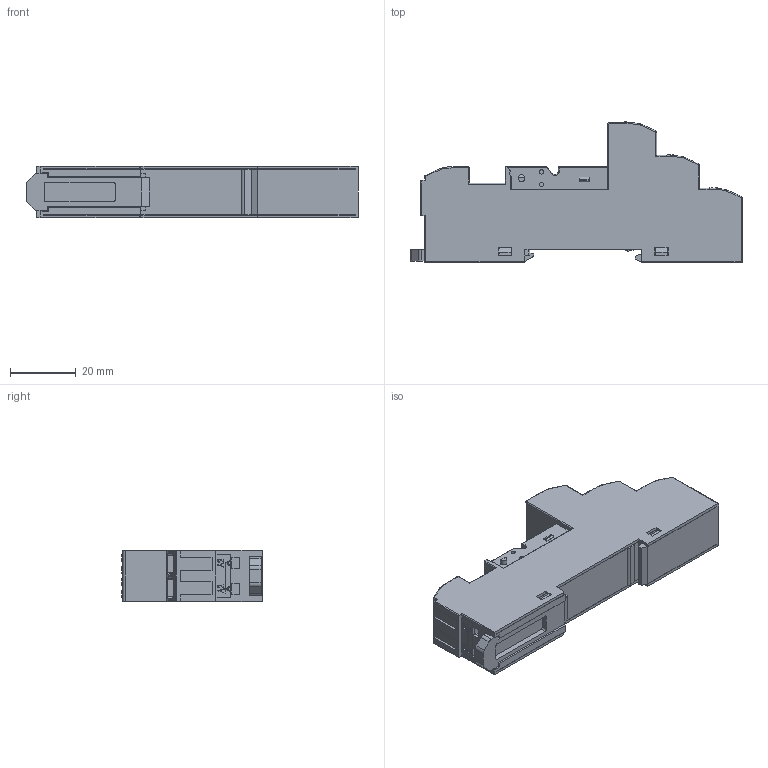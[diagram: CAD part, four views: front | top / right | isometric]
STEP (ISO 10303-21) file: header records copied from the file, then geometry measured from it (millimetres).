
FILE_DESCRIPTION (( 'STEP AP214' ), '1' );
FILE_NAME ('SRU08-S價釱7.810.625.01SW.STEP', '2020-08-14T07:17:29', ( '' ), ( '' ), 'SwSTEP 2.0', 'SolidWorks 2018', '' );
FILE_SCHEMA (( 'AUTOMOTIVE_DESIGN' ));
Products named in the file (1): SRU08-S價釱7.810.625.01SW
Bounding box: 101.2 x 42.7 x 15.85 mm (x, y, z)
Volume: 21275.2 mm3; surface area: 38741.2 mm2
Topology: 1 solids, 2 shells, 3133 faces, 9184 edges, 5979 vertices
Faces by surface type: plane 2299, cylinder 579, bspline 117, cone 61, torus 44, sphere 33
Entity records: 107718 total; most frequent: CARTESIAN_POINT 26981, ORIENTED_EDGE 18320, DIRECTION 14918, EDGE_CURVE 9160, VECTOR 7216, LINE 7216, VERTEX_POINT 5979, AXIS2_PLACEMENT_3D 3851
